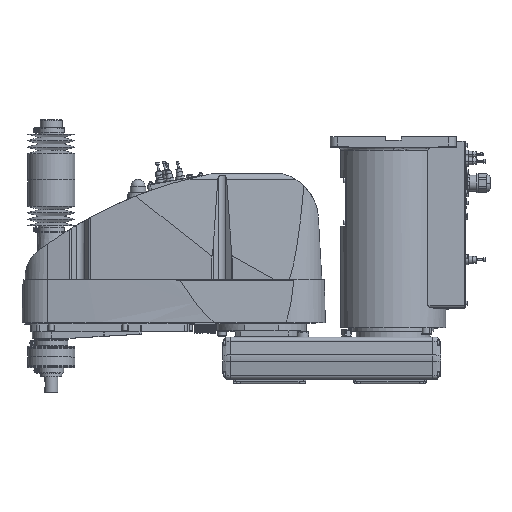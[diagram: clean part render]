
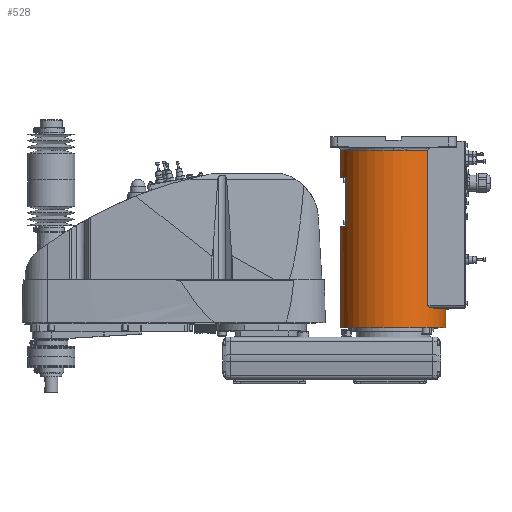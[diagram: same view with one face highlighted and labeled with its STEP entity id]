
A CAD part, top view. The second image highlights one B-rep face of the part: STEP entity #528.
In plain terms, the highlighted cylindrical face has radius 100 mm (diameter 200 mm), a partial arc.
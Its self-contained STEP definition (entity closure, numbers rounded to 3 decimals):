
#528 = ADVANCED_FACE( '', ( #2873 ), #2874, .T. );
#2873 = FACE_OUTER_BOUND( '', #7653, .T. );
#2874 = CYLINDRICAL_SURFACE( '', #7654, 100. );
#7653 = EDGE_LOOP( '', ( #13027, #13028, #13029, #13030, #13031, #13032, #13033, #13034, #13035, #13036, #13037, #13038, #13039, #13040, #13041, #13042 ) );
#7654 = AXIS2_PLACEMENT_3D( '', #13043, #13044, #13045 );
#13027 = ORIENTED_EDGE( '', *, *, #30130, .F. );
#13028 = ORIENTED_EDGE( '', *, *, #30131, .T. );
#13029 = ORIENTED_EDGE( '', *, *, #30132, .T. );
#13030 = ORIENTED_EDGE( '', *, *, #30133, .T. );
#13031 = ORIENTED_EDGE( '', *, *, #30134, .T. );
#13032 = ORIENTED_EDGE( '', *, *, #30135, .T. );
#13033 = ORIENTED_EDGE( '', *, *, #30136, .T. );
#13034 = ORIENTED_EDGE( '', *, *, #30137, .T. );
#13035 = ORIENTED_EDGE( '', *, *, #30138, .T. );
#13036 = ORIENTED_EDGE( '', *, *, #29732, .T. );
#13037 = ORIENTED_EDGE( '', *, *, #30139, .F. );
#13038 = ORIENTED_EDGE( '', *, *, #30140, .T. );
#13039 = ORIENTED_EDGE( '', *, *, #30141, .T. );
#13040 = ORIENTED_EDGE( '', *, *, #30142, .T. );
#13041 = ORIENTED_EDGE( '', *, *, #30143, .F. );
#13042 = ORIENTED_EDGE( '', *, *, #30144, .F. );
#13043 = CARTESIAN_POINT( '', ( 0., 194., 0. ) );
#13044 = DIRECTION( '', ( 0., 1., 0. ) );
#13045 = DIRECTION( '', ( 1., 0., 0. ) );
#29732 = EDGE_CURVE( '', #35201, #35204, #35206, .T. );
#30130 = EDGE_CURVE( '', #35960, #35961, #35962, .T. );
#30131 = EDGE_CURVE( '', #35960, #35963, #35964, .T. );
#30132 = EDGE_CURVE( '', #35963, #35965, #35966, .T. );
#30133 = EDGE_CURVE( '', #35965, #35967, #35968, .T. );
#30134 = EDGE_CURVE( '', #35967, #35969, #35970, .T. );
#30135 = EDGE_CURVE( '', #35969, #35971, #35972, .T. );
#30136 = EDGE_CURVE( '', #35971, #35973, #35974, .T. );
#30137 = EDGE_CURVE( '', #35973, #35975, #35976, .T. );
#30138 = EDGE_CURVE( '', #35975, #35201, #35977, .T. );
#30139 = EDGE_CURVE( '', #35978, #35204, #35979, .T. );
#30140 = EDGE_CURVE( '', #35978, #35980, #35981, .T. );
#30141 = EDGE_CURVE( '', #35980, #35982, #35983, .T. );
#30142 = EDGE_CURVE( '', #35982, #35984, #35985, .T. );
#30143 = EDGE_CURVE( '', #35986, #35984, #35987, .T. );
#30144 = EDGE_CURVE( '', #35961, #35986, #35988, .T. );
#35201 = VERTEX_POINT( '', #44127 );
#35204 = VERTEX_POINT( '', #44130 );
#35206 = CIRCLE( '', #44132, 100. );
#35960 = VERTEX_POINT( '', #45096 );
#35961 = VERTEX_POINT( '', #45097 );
#35962 = LINE( '', #45098, #45099 );
#35963 = VERTEX_POINT( '', #45100 );
#35964 = CIRCLE( '', #45101, 100. );
#35965 = VERTEX_POINT( '', #45102 );
#35966 = LINE( '', #45103, #45104 );
#35967 = VERTEX_POINT( '', #45105 );
#35968 = CIRCLE( '', #45106, 100. );
#35969 = VERTEX_POINT( '', #45107 );
#35970 = LINE( '', #45108, #45109 );
#35971 = VERTEX_POINT( '', #45110 );
#35972 = CIRCLE( '', #45111, 100. );
#35973 = VERTEX_POINT( '', #45112 );
#35974 = B_SPLINE_CURVE_WITH_KNOTS( '', 3, ( #45113, #45114, #45115, #45116, #45117, #45118, #45119, #45120, #45121, #45122, #45123, #45124, #45125, #45126, #45127, #45128, #45129, #45130 ), .UNSPECIFIED., .F., .F., ( 4, 2, 2, 2, 2, 2, 2, 2, 4 ), ( -7.48, -6.36, -5.24, -4.12, -3., -2.25, -1.5, -0.75, 0. ), .UNSPECIFIED. );
#35975 = VERTEX_POINT( '', #45131 );
#35976 = LINE( '', #45132, #45133 );
#35977 = CIRCLE( '', #45134, 100. );
#35978 = VERTEX_POINT( '', #45135 );
#35979 = LINE( '', #45136, #45137 );
#35980 = VERTEX_POINT( '', #45138 );
#35981 = CIRCLE( '', #45139, 100. );
#35982 = VERTEX_POINT( '', #45140 );
#35983 = LINE( '', #45141, #45142 );
#35984 = VERTEX_POINT( '', #45143 );
#35985 = CIRCLE( '', #45144, 100. );
#35986 = VERTEX_POINT( '', #45145 );
#35987 = LINE( '', #45146, #45147 );
#35988 = CIRCLE( '', #45148, 100. );
#44127 = CARTESIAN_POINT( '', ( 0., 363., 100. ) );
#44130 = CARTESIAN_POINT( '', ( -100., 363., 0. ) );
#44132 = AXIS2_PLACEMENT_3D( '', #58888, #58889, #58890 );
#45096 = CARTESIAN_POINT( '', ( 100., 64., 0. ) );
#45097 = CARTESIAN_POINT( '', ( 100., 25., 0. ) );
#45098 = CARTESIAN_POINT( '', ( 100., 194., 0. ) );
#45099 = VECTOR( '', #59662, 1. );
#45100 = CARTESIAN_POINT( '', ( 89.303, 64., 45. ) );
#45101 = AXIS2_PLACEMENT_3D( '', #59663, #59664, #59665 );
#45102 = CARTESIAN_POINT( '', ( 89.303, 62., 45. ) );
#45103 = CARTESIAN_POINT( '', ( 89.303, 63., 45. ) );
#45104 = VECTOR( '', #59666, 1. );
#45105 = CARTESIAN_POINT( '', ( 75.993, 62., 65. ) );
#45106 = AXIS2_PLACEMENT_3D( '', #59667, #59668, #59669 );
#45107 = CARTESIAN_POINT( '', ( 75.993, 64., 65. ) );
#45108 = CARTESIAN_POINT( '', ( 75.993, 63., 65. ) );
#45109 = VECTOR( '', #59670, 1. );
#45110 = CARTESIAN_POINT( '', ( 70.42, 64., 71. ) );
#45111 = AXIS2_PLACEMENT_3D( '', #59671, #59672, #59673 );
#45112 = CARTESIAN_POINT( '', ( 66.144, 68., 75. ) );
#45113 = CARTESIAN_POINT( '', ( 70.42, 64., 71. ) );
#45114 = CARTESIAN_POINT( '', ( 70.155, 64., 71.263 ) );
#45115 = CARTESIAN_POINT( '', ( 69.877, 64.026, 71.535 ) );
#45116 = CARTESIAN_POINT( '', ( 69.316, 64.139, 72.08 ) );
#45117 = CARTESIAN_POINT( '', ( 69.031, 64.224, 72.352 ) );
#45118 = CARTESIAN_POINT( '', ( 68.475, 64.457, 72.879 ) );
#45119 = CARTESIAN_POINT( '', ( 68.203, 64.604, 73.134 ) );
#45120 = CARTESIAN_POINT( '', ( 67.688, 64.954, 73.61 ) );
#45121 = CARTESIAN_POINT( '', ( 67.446, 65.158, 73.831 ) );
#45122 = CARTESIAN_POINT( '', ( 67.082, 65.542, 74.162 ) );
#45123 = CARTESIAN_POINT( '', ( 66.938, 65.716, 74.292 ) );
#45124 = CARTESIAN_POINT( '', ( 66.674, 66.103, 74.529 ) );
#45125 = CARTESIAN_POINT( '', ( 66.555, 66.315, 74.636 ) );
#45126 = CARTESIAN_POINT( '', ( 66.356, 66.766, 74.812 ) );
#45127 = CARTESIAN_POINT( '', ( 66.277, 67.005, 74.882 ) );
#45128 = CARTESIAN_POINT( '', ( 66.171, 67.497, 74.976 ) );
#45129 = CARTESIAN_POINT( '', ( 66.144, 67.75, 75. ) );
#45130 = CARTESIAN_POINT( '', ( 66.144, 68., 75. ) );
#45131 = CARTESIAN_POINT( '', ( 66.144, 363., 75. ) );
#45132 = CARTESIAN_POINT( '', ( 66.144, 215.5, 75. ) );
#45133 = VECTOR( '', #59674, 1. );
#45134 = AXIS2_PLACEMENT_3D( '', #59675, #59676, #59677 );
#45135 = CARTESIAN_POINT( '', ( -100., 311.3, 0. ) );
#45136 = CARTESIAN_POINT( '', ( -100., 194., 0. ) );
#45137 = VECTOR( '', #59678, 1. );
#45138 = CARTESIAN_POINT( '', ( -88., 311.3, 47.497 ) );
#45139 = AXIS2_PLACEMENT_3D( '', #59679, #59680, #59681 );
#45140 = CARTESIAN_POINT( '', ( -88., 218.3, 47.497 ) );
#45141 = CARTESIAN_POINT( '', ( -88., 264.8, 47.497 ) );
#45142 = VECTOR( '', #59682, 1. );
#45143 = CARTESIAN_POINT( '', ( -100., 218.3, 0. ) );
#45144 = AXIS2_PLACEMENT_3D( '', #59683, #59684, #59685 );
#45145 = CARTESIAN_POINT( '', ( -100., 25., 0. ) );
#45146 = CARTESIAN_POINT( '', ( -100., 194., 0. ) );
#45147 = VECTOR( '', #59686, 1. );
#45148 = AXIS2_PLACEMENT_3D( '', #59687, #59688, #59689 );
#58888 = CARTESIAN_POINT( '', ( 0., 363., 0. ) );
#58889 = DIRECTION( '', ( 0., -1., 0. ) );
#58890 = DIRECTION( '', ( 1., 0., 0. ) );
#59662 = DIRECTION( '', ( 0., -1., 0. ) );
#59663 = CARTESIAN_POINT( '', ( 0., 64., 0. ) );
#59664 = DIRECTION( '', ( 0., -1., 0. ) );
#59665 = DIRECTION( '', ( 1., 0., 0. ) );
#59666 = DIRECTION( '', ( 0., -1., 0. ) );
#59667 = CARTESIAN_POINT( '', ( 0., 62., 0. ) );
#59668 = DIRECTION( '', ( 0., -1., 0. ) );
#59669 = DIRECTION( '', ( 1., 0., 0. ) );
#59670 = DIRECTION( '', ( 0., 1., 0. ) );
#59671 = CARTESIAN_POINT( '', ( 0., 64., 0. ) );
#59672 = DIRECTION( '', ( 0., -1., 0. ) );
#59673 = DIRECTION( '', ( 1., 0., 0. ) );
#59674 = DIRECTION( '', ( 0., 1., 0. ) );
#59675 = CARTESIAN_POINT( '', ( 0., 363., 0. ) );
#59676 = DIRECTION( '', ( 0., -1., 0. ) );
#59677 = DIRECTION( '', ( 1., 0., 0. ) );
#59678 = DIRECTION( '', ( 0., 1., 0. ) );
#59679 = CARTESIAN_POINT( '', ( 0., 311.3, 0. ) );
#59680 = DIRECTION( '', ( 0., 1., 0. ) );
#59681 = DIRECTION( '', ( 1., 0., 0. ) );
#59682 = DIRECTION( '', ( 0., -1., 0. ) );
#59683 = CARTESIAN_POINT( '', ( 0., 218.3, 0. ) );
#59684 = DIRECTION( '', ( 0., -1., 0. ) );
#59685 = DIRECTION( '', ( 1., 0., 0. ) );
#59686 = DIRECTION( '', ( 0., 1., 0. ) );
#59687 = CARTESIAN_POINT( '', ( 0., 25., 0. ) );
#59688 = DIRECTION( '', ( 0., -1., 0. ) );
#59689 = DIRECTION( '', ( 1., 0., 0. ) );
